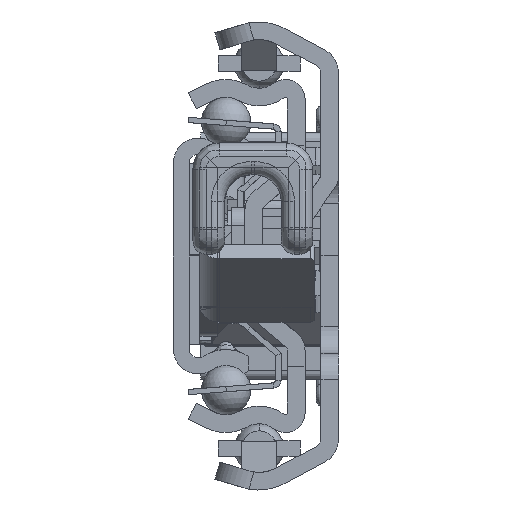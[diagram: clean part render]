
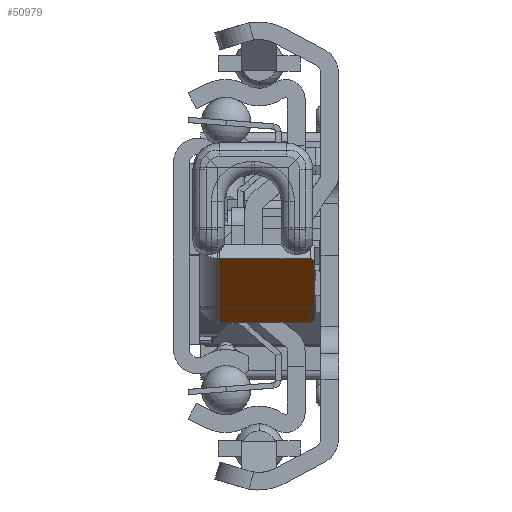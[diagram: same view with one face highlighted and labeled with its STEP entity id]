
A CAD part, left-side view. The second image highlights one B-rep face of the part: STEP entity #50979.
In plain terms, the highlighted planar face has unit normal (-0.597, 0, -0.802) as drawn and (-0.597, -0.802, 0) by its records, which use the part's own axes.
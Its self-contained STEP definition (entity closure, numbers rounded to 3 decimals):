
#50371=DIRECTION('',(0.802,-0.597,0.));
#50372=VECTOR('',#50371,12.);
#50373=CARTESIAN_POINT('',(31.957,-10.314,2.2));
#50374=LINE('',#50373,#50372);
#50399=CARTESIAN_POINT('',(41.184,-17.178,12.5));
#50400=DIRECTION('',(-0.597,-0.802,0.));
#50401=DIRECTION('',(0.802,-0.597,0.));
#50402=AXIS2_PLACEMENT_3D('',#50399,#50400,#50401);
#50404=DIRECTION('',(0.,0.,1.));
#50405=VECTOR('',#50404,10.3);
#50406=CARTESIAN_POINT('',(41.586,-17.476,2.2));
#50407=LINE('',#50406,#50405);
#50408=DIRECTION('',(0.,0.,-1.));
#50409=VECTOR('',#50408,10.3);
#50410=CARTESIAN_POINT('',(31.957,-10.314,12.5));
#50411=LINE('',#50410,#50409);
#50412=CARTESIAN_POINT('',(32.358,-10.613,12.5));
#50413=DIRECTION('',(-0.597,-0.802,0.));
#50414=DIRECTION('',(0.,0.,1.));
#50415=AXIS2_PLACEMENT_3D('',#50412,#50413,#50414);
#50417=DIRECTION('',(-0.802,0.597,0.));
#50418=VECTOR('',#50417,11.);
#50419=CARTESIAN_POINT('',(41.184,-17.178,13.));
#50420=LINE('',#50419,#50418);
#50633=CARTESIAN_POINT('',(31.957,-10.314,2.2));
#50634=CARTESIAN_POINT('',(41.586,-17.476,2.2));
#50635=VERTEX_POINT('',#50633);
#50636=VERTEX_POINT('',#50634);
#50665=CARTESIAN_POINT('',(41.586,-17.476,12.5));
#50666=CARTESIAN_POINT('',(41.184,-17.178,13.));
#50667=VERTEX_POINT('',#50665);
#50668=VERTEX_POINT('',#50666);
#50673=CARTESIAN_POINT('',(32.358,-10.613,13.));
#50674=CARTESIAN_POINT('',(31.957,-10.314,12.5));
#50675=VERTEX_POINT('',#50673);
#50676=VERTEX_POINT('',#50674);
#50961=CARTESIAN_POINT('',(34.726,-12.374,0.));
#50962=DIRECTION('',(-0.597,-0.802,0.));
#50963=DIRECTION('',(0.802,-0.597,0.));
#50964=AXIS2_PLACEMENT_3D('',#50961,#50962,#50963);
#50965=PLANE('',#50964);
#50967=ORIENTED_EDGE('',*,*,#50966,.F.);
#50969=ORIENTED_EDGE('',*,*,#50968,.F.);
#50970=ORIENTED_EDGE('',*,*,#50948,.F.);
#50972=ORIENTED_EDGE('',*,*,#50971,.F.);
#50974=ORIENTED_EDGE('',*,*,#50973,.F.);
#50976=ORIENTED_EDGE('',*,*,#50975,.F.);
#50977=EDGE_LOOP('',(#50967,#50969,#50970,#50972,#50974,#50976));
#50978=FACE_OUTER_BOUND('',#50977,.F.);
#50403=CIRCLE('',#50402,0.5);
#50416=CIRCLE('',#50415,0.5);
#50948=EDGE_CURVE('',#50635,#50636,#50374,.T.);
#50966=EDGE_CURVE('',#50667,#50668,#50403,.T.);
#50968=EDGE_CURVE('',#50636,#50667,#50407,.T.);
#50971=EDGE_CURVE('',#50676,#50635,#50411,.T.);
#50973=EDGE_CURVE('',#50675,#50676,#50416,.T.);
#50975=EDGE_CURVE('',#50668,#50675,#50420,.T.);
#50979=ADVANCED_FACE('',(#50978),#50965,.T.);
